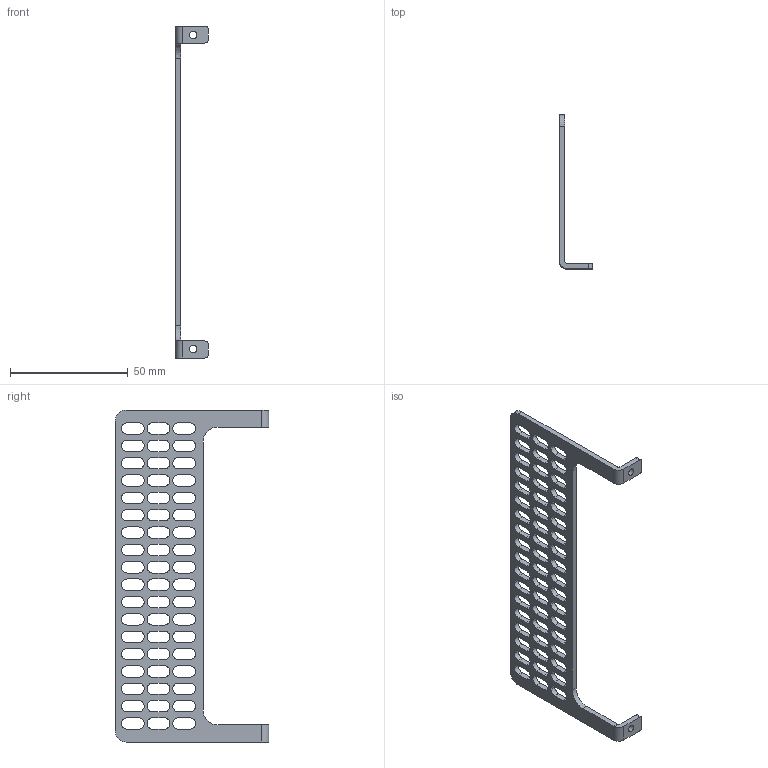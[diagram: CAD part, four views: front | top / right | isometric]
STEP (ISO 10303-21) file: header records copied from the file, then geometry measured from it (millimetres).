
FILE_DESCRIPTION (( 'STEP AP203' ), '1' );
FILE_NAME ('510109311.STEP', '2012-04-11T20:15:57', ( 'VPC' ), ( 'Virginia Panel Corporation' ), 'SwSTEP 2.0', 'SolidWorks 2011', '' );
FILE_SCHEMA (( 'CONFIG_CONTROL_DESIGN' ));
Length unit declared in the file: inch
Products named in the file (2): Part9^510109311; 510109311
Assembly tree (1 placements, depth 2):
  510109311
    Part9^510109311
Bounding box: 13.97 x 65.28 x 140.97 mm (x, y, z)
Volume: 8162 mm3; surface area: 11391.6 mm2
Topology: 1 solids, 1 shells, 304 faces, 902 edges, 600 vertices
Faces by surface type: cylinder 180, plane 124
Entity records: 10738 total; most frequent: DIRECTION 1870, CARTESIAN_POINT 1822, ORIENTED_EDGE 1804, EDGE_CURVE 902, AXIS2_PLACEMENT_3D 664, VERTEX_POINT 600, LINE 542, VECTOR 542
